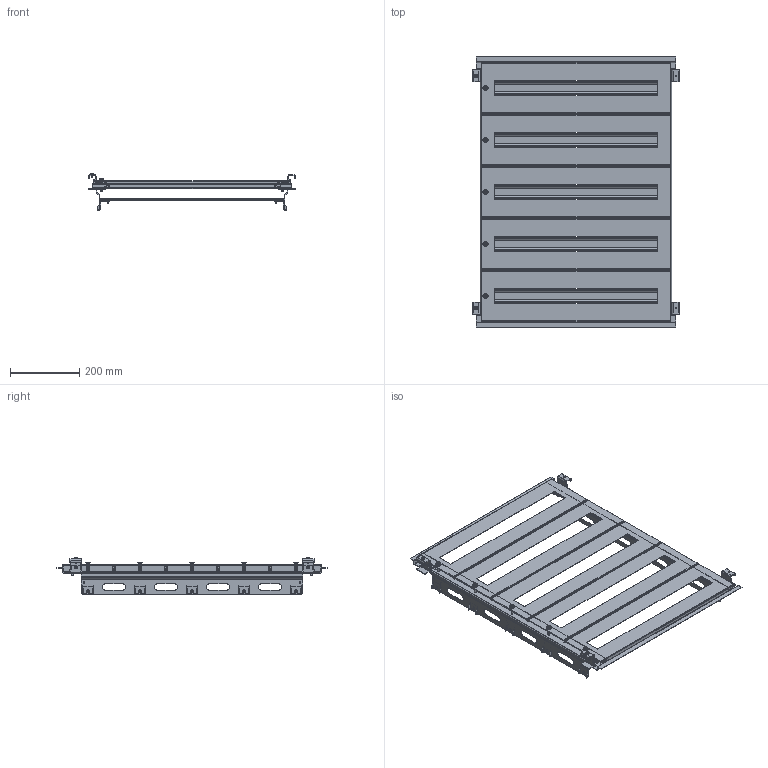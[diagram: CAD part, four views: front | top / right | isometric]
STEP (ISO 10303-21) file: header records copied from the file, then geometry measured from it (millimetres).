
FILE_DESCRIPTION (( 'STEP AP203' ), '1' );
FILE_NAME ('07008060010_15.step', '2021-03-10T12:44:43', ( '' ), ( '' ), 'SwSTEP 2.0', 'SolidWorks 2019', '' );
FILE_SCHEMA (( 'CONFIG_CONTROL_DESIGN' ));
Length unit declared in the file: millimetre
Products named in the file (16): 10008060001_01; 05008060005_07; 03008060008_07; 07008060010_15; 00008060006_04; Vite TRI TPS TORX DIN 7500_Vite trilobata TPS TORX M5x10 DIN7500; Vite TRI TCB UNI 8112_Vite trilobata TCB M5x30 UNI 8112; 10008060002_01; 0910200000001_01; 03008060007_04; 03008060009_06; Vite TRI TCB TORX DIN 7500_Vite trilobata TCB TORX M5x10 DIN 7500
Assembly tree (77 placements, depth 3):
  07008060010_15
    03008060009_06  x2
    10008060001_01  x4
    10008060002_01  x14
    Vite TRI TCB TORX DIN 7500_Vite trilobata TCB TORX M5x10 DIN 7500  x16
    Vite TRI TPS TORX DIN 7500_Vite trilobata TPS TORX M5x10 DIN7500  x14
    05008060005_07
      03008060008_07
    00008060006_04  x5
    Vite TRI TCB UNI 8112_Vite trilobata TCB M5x30 UNI 8112  x5
    0910200000001_01  x5
    05008060005_07
      03008060008_07
    05008060005_07
      03008060008_07
    03008060007_04  x2
    05008060005_07
      03008060008_07
    05008060005_07
      03008060008_07
Bounding box: 597 x 779.4 x 108.91 mm (x, y, z)
Volume: 979625.8 mm3; surface area: 1502859.2 mm2
Topology: 72 solids, 72 shells, 3042 faces, 7614 edges, 4751 vertices
Faces by surface type: plane 1510, cylinder 1202, torus 172, cone 138, sphere 10, bspline 10
Entity records: 20980 total; most frequent: DIRECTION 3134, CARTESIAN_POINT 3126, ORIENTED_EDGE 2906, EDGE_CURVE 1453, AXIS2_PLACEMENT_3D 1054, VECTOR 1026, LINE 1026, VERTEX_POINT 918
